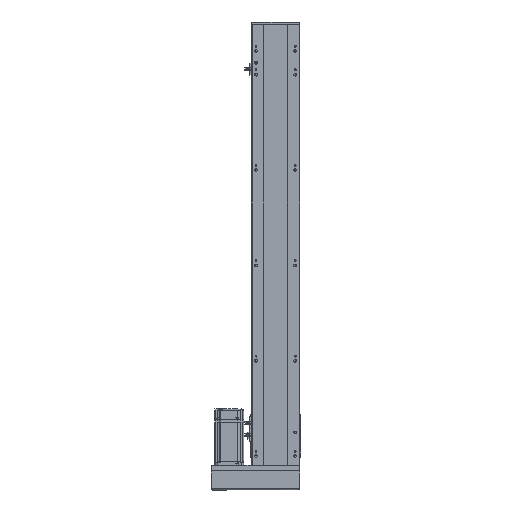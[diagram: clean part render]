
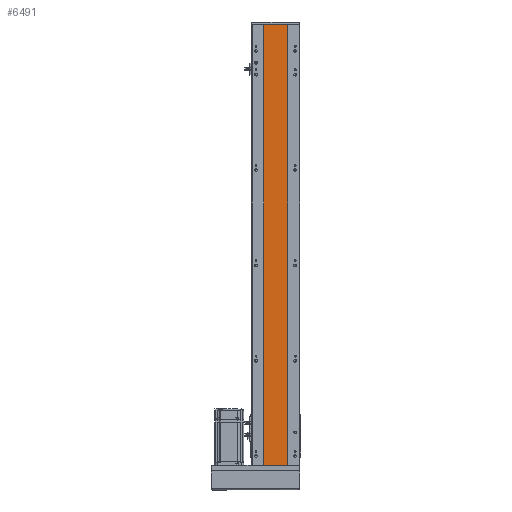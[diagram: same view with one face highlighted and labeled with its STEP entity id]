
A CAD part, front view. The second image highlights one B-rep face of the part: STEP entity #6491.
In plain terms, the highlighted planar face has unit normal (0, -1, 0).
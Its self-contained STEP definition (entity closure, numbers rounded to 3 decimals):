
#1034 = FACE_OUTER_BOUND ( 'NONE', #27662, .T. ) ;
#1158 = VERTEX_POINT ( 'NONE', #29263 ) ;
#1530 = ORIENTED_EDGE ( 'NONE', *, *, #20837, .F. ) ;
#2052 = AXIS2_PLACEMENT_3D ( 'NONE', #11785, #26196, #17369 ) ;
#2344 = DIRECTION ( 'NONE',  ( 1., 0., 0. ) ) ;
#6075 = LINE ( 'NONE', #22646, #23371 ) ;
#6381 = CARTESIAN_POINT ( 'NONE',  ( 1579.351, 60.479, -923.5 ) ) ;
#6491 = ADVANCED_FACE ( 'NONE', ( #1034 ), #17555, .T. ) ;
#6727 = EDGE_CURVE ( 'NONE', #12803, #8758, #34990, .T. ) ;
#8758 = VERTEX_POINT ( 'NONE', #28997 ) ;
#9308 = ORIENTED_EDGE ( 'NONE', *, *, #28611, .T. ) ;
#10155 = VECTOR ( 'NONE', #2344, 1000. ) ;
#11785 = CARTESIAN_POINT ( 'NONE',  ( 1579.351, 60.479, -923.5 ) ) ;
#11983 = VECTOR ( 'NONE', #31087, 1000. ) ;
#12803 = VERTEX_POINT ( 'NONE', #30951 ) ;
#14300 = ORIENTED_EDGE ( 'NONE', *, *, #6727, .T. ) ;
#14514 = CARTESIAN_POINT ( 'NONE',  ( 1579.351, 60.479, -923.5 ) ) ;
#15903 = CARTESIAN_POINT ( 'NONE',  ( 1628.351, 60.479, -923.5 ) ) ;
#17369 = DIRECTION ( 'NONE',  ( 0., 0., -1. ) ) ;
#17555 = PLANE ( 'NONE',  #2052 ) ;
#19584 = DIRECTION ( 'NONE',  ( 0., 0., 1. ) ) ;
#20837 = EDGE_CURVE ( 'NONE', #1158, #8758, #23940, .T. ) ;
#22646 = CARTESIAN_POINT ( 'NONE',  ( 1579.351, 60.479, -923.5 ) ) ;
#22804 = LINE ( 'NONE', #14514, #11983 ) ;
#23371 = VECTOR ( 'NONE', #19584, 1000. ) ;
#23940 = LINE ( 'NONE', #34735, #10155 ) ;
#26148 = ORIENTED_EDGE ( 'NONE', *, *, #33608, .F. ) ;
#26196 = DIRECTION ( 'NONE',  ( 0., -1., 0. ) ) ;
#27662 = EDGE_LOOP ( 'NONE', ( #1530, #26148, #9308, #14300 ) ) ;
#28611 = EDGE_CURVE ( 'NONE', #30084, #12803, #22804, .T. ) ;
#28997 = CARTESIAN_POINT ( 'NONE',  ( 1628.351, 60.479, 0. ) ) ;
#29263 = CARTESIAN_POINT ( 'NONE',  ( 1579.351, 60.479, 0. ) ) ;
#30084 = VERTEX_POINT ( 'NONE', #6381 ) ;
#30790 = VECTOR ( 'NONE', #32119, 1000. ) ;
#30951 = CARTESIAN_POINT ( 'NONE',  ( 1628.351, 60.479, -923.5 ) ) ;
#31087 = DIRECTION ( 'NONE',  ( 1., 0., 0. ) ) ;
#32119 = DIRECTION ( 'NONE',  ( 0., 0., 1. ) ) ;
#33608 = EDGE_CURVE ( 'NONE', #30084, #1158, #6075, .T. ) ;
#34735 = CARTESIAN_POINT ( 'NONE',  ( 1579.351, 60.479, 0. ) ) ;
#34990 = LINE ( 'NONE', #15903, #30790 ) ;
